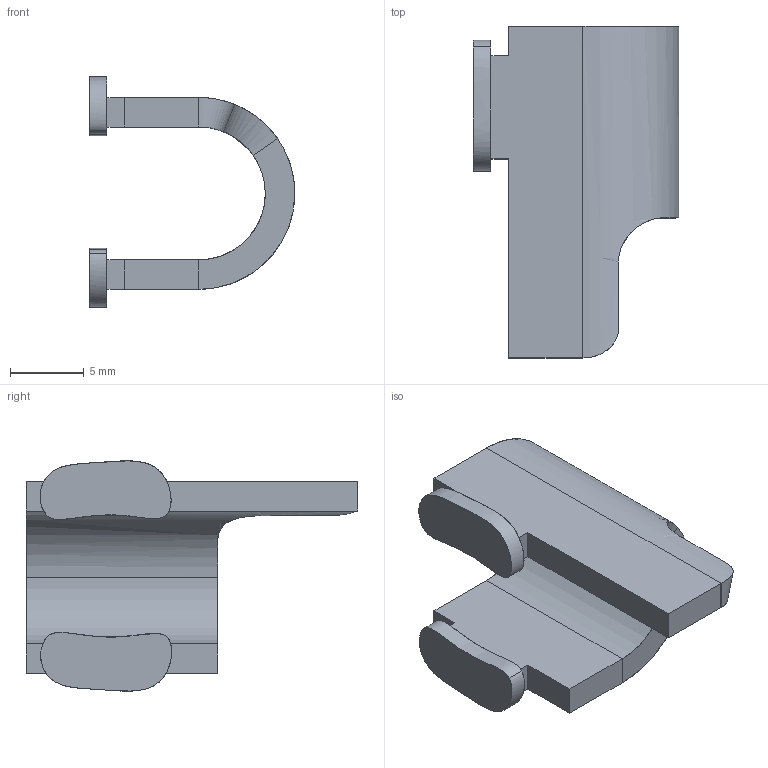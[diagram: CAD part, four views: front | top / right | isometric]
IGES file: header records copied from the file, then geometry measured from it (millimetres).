
Start section: SolidWorks IGES FILE using analytic representation for surfaces
Global section: file name: C:\Documents and Settings\lecoutey\Bureau\POF 310\309.021.00.IGS; native system: SolidWorks 2004 by SolidWorks Corporation; preprocessor: Version 5.3; author: lecoutey; date: 050408.141031; units: millimetre
Bounding box: 13.94 x 22.5 x 15.61 mm (x, y, z)
Surface area: 1204.9 mm2 (no closed solid volume)
Topology: 0 solids, 0 shells, 34 faces, 426 edges, 426 vertices
Faces by surface type: bspline 29, revolution 5
